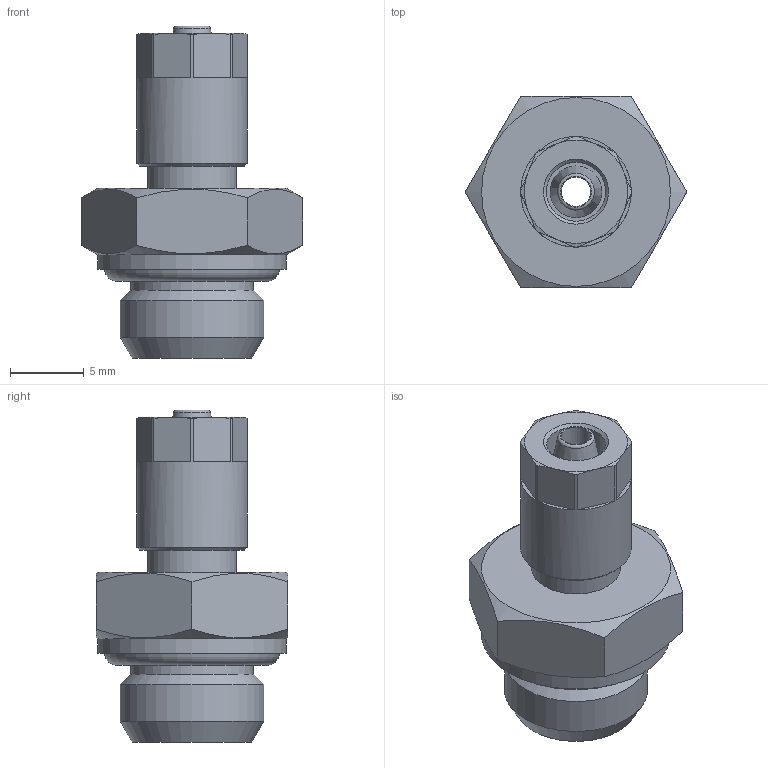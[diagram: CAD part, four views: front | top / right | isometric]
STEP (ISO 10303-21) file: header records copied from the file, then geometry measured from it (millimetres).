
FILE_DESCRIPTION(/* description */ (''),/* implementation_level */ '2;1');
FILE_NAME(/* name */ '10224_301Z_427_18_08.09.15',/* time_stamp */ '2015-09-08T08:55:20+02:00',/* author */ (''),/* organization */ (''),/* preprocessor_version */ 'ST-DEVELOPER v14',/* originating_system */ 'HiCAD 2013 1802.4 Build 509',/* authorisation */ '');
FILE_SCHEMA (('AUTOMOTIVE_DESIGN { 1 0 10303 214 1 1 1 1 }'));
Length unit declared in the file: millimetre
Products named in the file (4): Root; 17001; OR 7.2X1.9; R10224
Assembly tree (3 placements, depth 2):
  Root
    17001
    OR 7.2X1.9
    R10224
Bounding box: 15.01 x 13 x 22.5 mm (x, y, z)
Volume: 1381.1 mm3; surface area: 1663.3 mm2
Topology: 3 solids, 3 shells, 66 faces, 156 edges, 99 vertices
Faces by surface type: plane 31, cone 21, cylinder 10, torus 4
Full cylindrical faces by diameter (mm): 2 x1, 3.1 x1, 4 x1, 5.08 x1, 5.5 x1, 6 x1, 7.5 x1, 8.3 x1, 9.728 x1, 12.8 x1
Entity records: 2905 total; most frequent: DIRECTION 344, CARTESIAN_POINT 272, PRESENTATION_STYLE_ASSIGNMENT 233, COLOUR_RGB 232, DRAUGHTING_PRE_DEFINED_CURVE_FONT 230, CURVE_STYLE 230, OVER_RIDING_STYLED_ITEM 230, ORIENTED_EDGE 230
